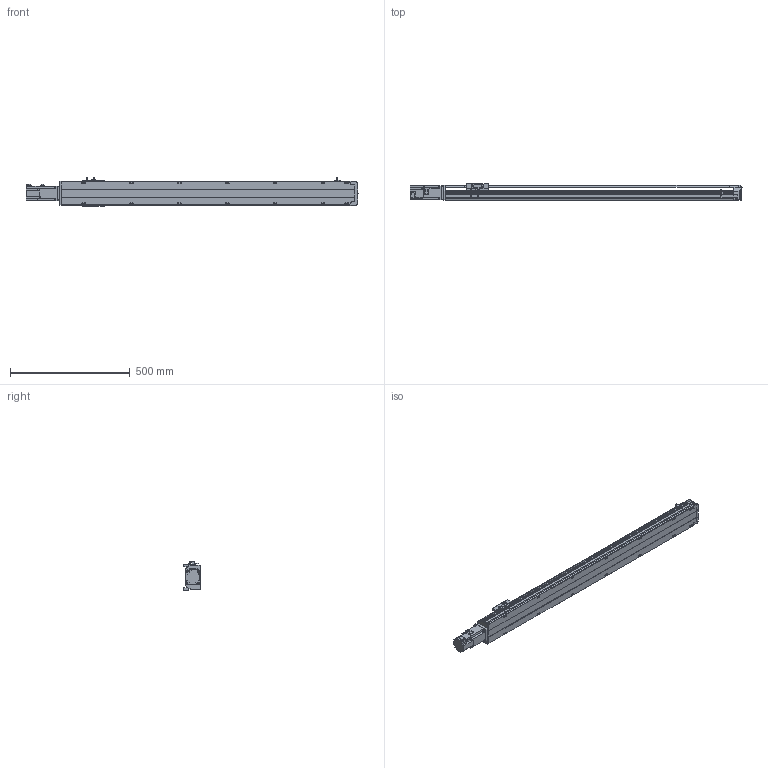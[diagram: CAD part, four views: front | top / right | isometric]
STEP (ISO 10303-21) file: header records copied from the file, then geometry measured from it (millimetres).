
FILE_DESCRIPTION(/* description */ ('STEP AP214'),/* implementation_level */ '2;1');
FILE_NAME(/* name */ 'PSS120-L10-S1000-BC-T40-C1-N(0)',/* time_stamp */ '2022-06-02T02:33:46+02:00',/* author */ ('License CC BY-ND 4.0'),/* organization */ ('CADENAS'),/* preprocessor_version */ 'ST-DEVELOPER v18.102',/* originating_system */ 'PARTsolutions',/* authorisation */ ' ');
FILE_SCHEMA (('AUTOMOTIVE_DESIGN {1 0 10303 214 3 1 1}'));
Length unit declared in the file: millimetre
Products named in the file (8): PSS120-L10-S1000-BC-T40-C1-N(0); PSS120-S1000-BC-N_S; T40-p1; PSS120BC-N_h; PSS120-N_sensor; PSS120-BC-C1-N_sl; PSS120-N_Q; PSS120-S1000-BC-C1-N_body
Assembly tree (9 placements, depth 2):
  PSS120-L10-S1000-BC-T40-C1-N(0)
    PSS120-S1000-BC-N_S
    T40-p1
    PSS120BC-N_h
    PSS120-N_sensor  x3
    PSS120-BC-C1-N_sl
    PSS120-N_Q
    PSS120-S1000-BC-C1-N_body
Bounding box: 1388.7 x 70 x 117.7 mm (x, y, z)
Volume: 4401272.8 mm3; surface area: 783327.8 mm2
Topology: 9 solids, 9 shells, 849 faces, 2264 edges, 1500 vertices
Faces by surface type: plane 565, cylinder 258, cone 26
Full cylindrical faces by diameter (mm): 2.8 x3, 4 x4, 4.134 x18, 4.2 x4, 4.4 x2, 4.5 x4, 4.6 x3, 4.917 x4, 5 x6, 5.5 x21, 7 x2, 8 x8, 8.5 x18, 14 x1, 28 x1, 32 x1, 50 x1
Entity records: 22798 total; most frequent: CARTESIAN_POINT 4124, DIRECTION 3821, ORIENTED_EDGE 3670, EDGE_CURVE 1835, VERTEX_POINT 1286, AXIS2_PLACEMENT_3D 1279, LINE 1263, VECTOR 1263
